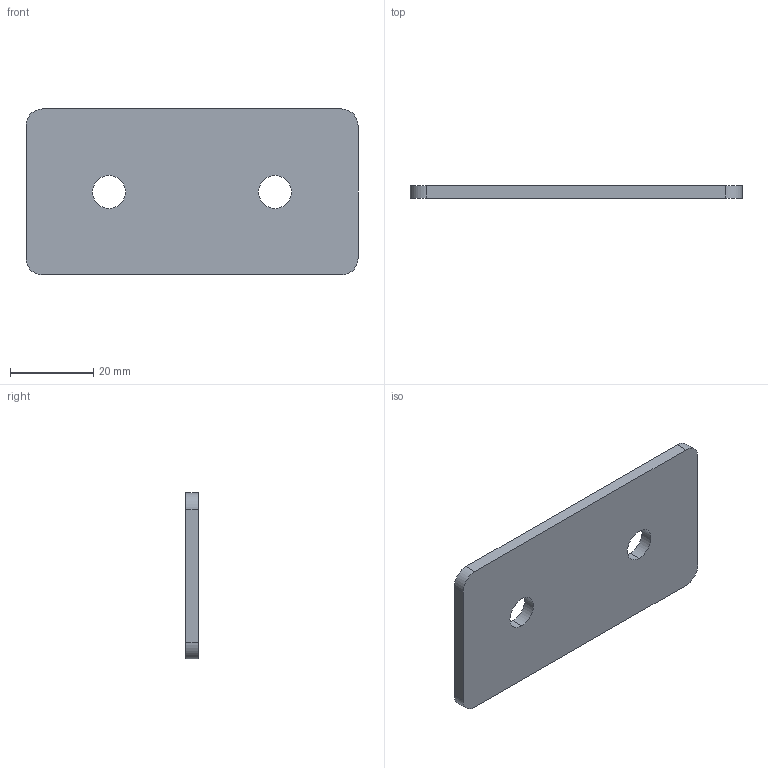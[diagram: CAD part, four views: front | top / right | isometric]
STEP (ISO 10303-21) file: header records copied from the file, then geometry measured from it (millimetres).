
FILE_DESCRIPTION (( 'STEP AP214' ), '1' );
FILE_NAME ('AMC02005.STEP', '2025-02-27T12:16:02', ( '' ), ( '' ), 'SwSTEP 2.0', 'SolidWorks 2023', '' );
FILE_SCHEMA (( 'AUTOMOTIVE_DESIGN' ));
Length unit declared in the file: millimetre
Products named in the file (1): AMC02005
Bounding box: 80 x 3 x 40 mm (x, y, z)
Volume: 9257.2 mm3; surface area: 7021.7 mm2
Topology: 1 solids, 1 shells, 14 faces, 36 edges, 24 vertices
Faces by surface type: cylinder 8, plane 6
Entity records: 467 total; most frequent: DIRECTION 82, CARTESIAN_POINT 75, ORIENTED_EDGE 72, EDGE_CURVE 36, AXIS2_PLACEMENT_3D 31, VERTEX_POINT 24, VECTOR 20, LINE 20
